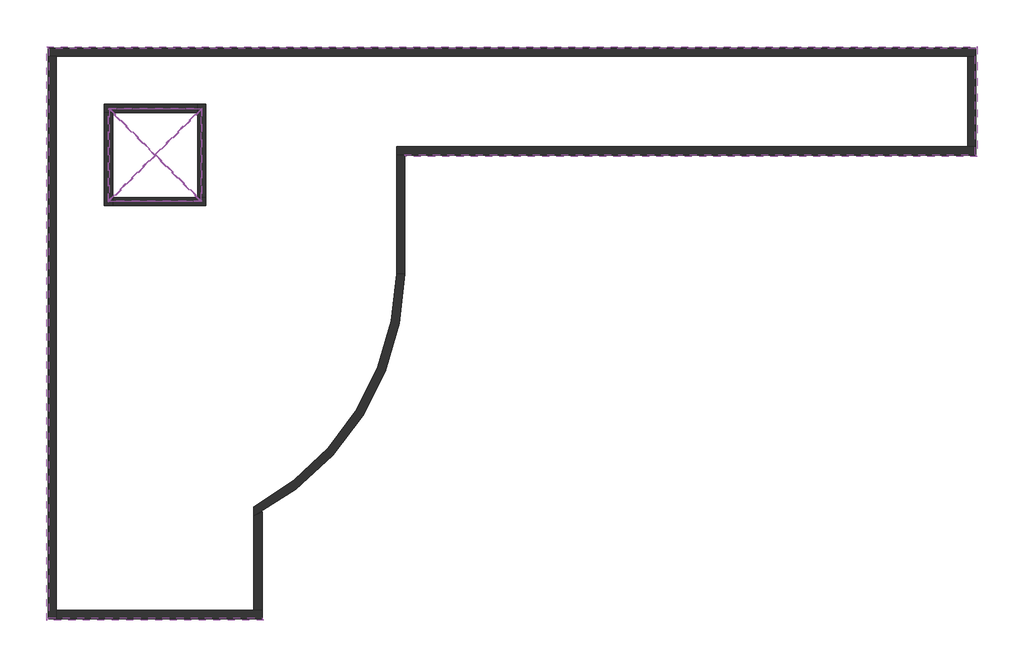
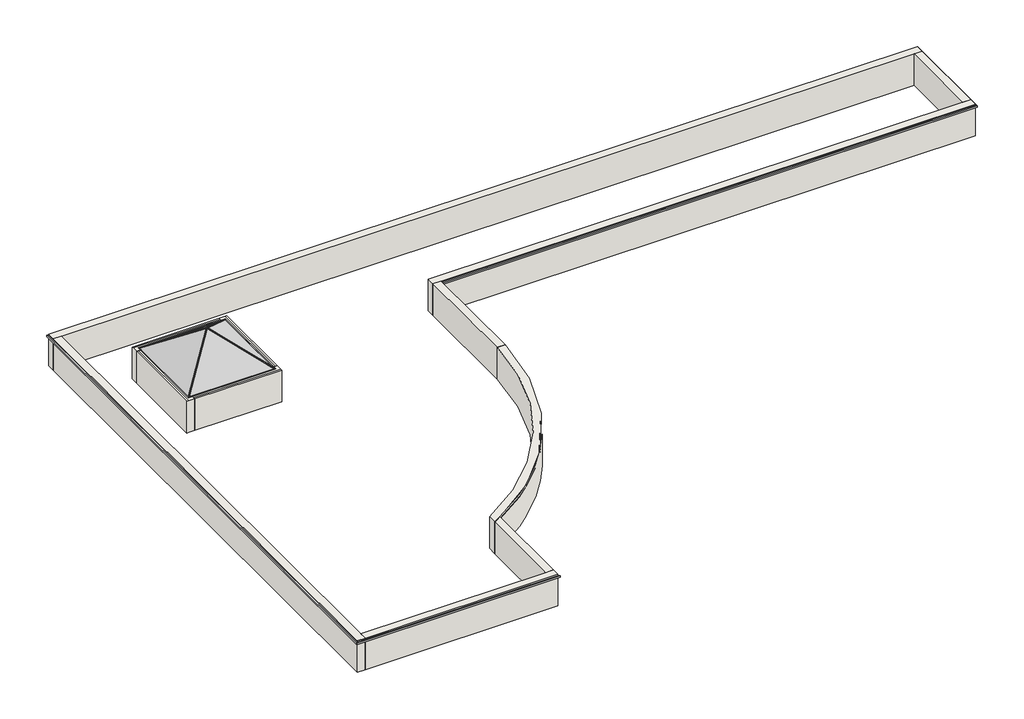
# One storey, incomplete: 12 members, 12 walls, 5 proxies, 4 plates.
"""IFC4 building model written with IfcOpenShell, lengths in millimetres."""

import ifcopenshell
import ifcopenshell.guid

model = None  # the IFC model being written
_history = None  # IfcOwnerHistory: only IFC2X3 demands one
_inside = {}  # id of a spatial element -> (the spatial element, [elements in it])
_under = {}  # id of a project, library or spatial element -> (it, [spatial elements below it])
_declared = {}  # id of a project -> (the project, [libraries it declares])
_typed = {}  # id of a type object -> (the type object, [elements of that type])
_made_of = {}  # id of a material, layer set ... -> (it, [elements and type objects made of it])


def new_model(schema):
    """Start an empty IFC model of exactly this schema.

    Asked for "IFC4X3", IfcOpenShell would pick the latest addendum, in which some entities
    have other attributes; the version numbers below select the first issue.
    IFC2X3 requires an IfcOwnerHistory on every rooted entity: one is made here for all.
    """
    global model, _history
    if schema == "IFC4X3":
        model = ifcopenshell.file(schema_version=(4, 3, 0, 0))
    else:
        model = ifcopenshell.file(schema=schema)
    _inside.clear()
    _under.clear()
    _declared.clear()
    _typed.clear()
    _made_of.clear()
    _history = None
    if model.schema == "IFC2X3":
        org = make("IfcOrganization", Name="unknown")
        user = make(
            "IfcPersonAndOrganization",
            ThePerson=make("IfcPerson", FamilyName="unknown"),
            TheOrganization=org,
        )
        app = make(
            "IfcApplication",
            ApplicationDeveloper=org,
            Version="unknown",
            ApplicationFullName="unknown",
            ApplicationIdentifier="unknown",
        )
        _history = make(
            "IfcOwnerHistory",
            OwningUser=user,
            OwningApplication=app,
            ChangeAction="ADDED",
            CreationDate=0,
        )
    return model


def make(cls, **values):
    """One entity of the class cls with the attributes given. An attribute that is None is left unset."""
    return model.create_entity(
        cls, **{name: value for name, value in values.items() if value is not None}
    )


def rooted(cls, **values):
    """An entity with a GlobalId (a new one), such as an element, a storey or a relation."""
    return make(cls, GlobalId=ifcopenshell.guid.new(), OwnerHistory=_history, **values)


def si_unit(unit_type, name, prefix=None):
    """IfcSIUnit, for example si_unit("LENGTHUNIT", "METRE", prefix="MILLI")."""
    return make("IfcSIUnit", UnitType=unit_type, Prefix=prefix, Name=name)


def assignment(units):
    """IfcUnitAssignment: the units of a project."""
    return None if units is None else make("IfcUnitAssignment", Units=units)


def point(xyz):
    """IfcCartesianPoint."""
    return None if xyz is None else make("IfcCartesianPoint", Coordinates=xyz)


def direction(xyz):
    """IfcDirection."""
    return None if xyz is None else make("IfcDirection", DirectionRatios=xyz)


def frame(location, z_axis=None, x_axis=None):
    """IfcAxis2Placement3D, a coordinate frame: its origin and axes. An axis left out is left unset."""
    return make(
        "IfcAxis2Placement3D",
        Location=point(location),
        Axis=direction(z_axis),
        RefDirection=direction(x_axis),
    )


def origin():
    """The frame at (0, 0, 0) with its axes left unset."""
    return frame((0.0, 0.0, 0.0))


def place(relative_to, where):
    """IfcLocalPlacement: puts the frame where relative to a parent placement (None: the world)."""
    return make(
        "IfcLocalPlacement", PlacementRelTo=relative_to, RelativePlacement=where
    )


def context(
    kind, dimensions, precision=None, world=None, true_north=None, identifier=None
):
    """IfcGeometricRepresentationContext, for example the 3D "Model" context."""
    return make(
        "IfcGeometricRepresentationContext",
        ContextIdentifier=identifier,
        ContextType=kind,
        CoordinateSpaceDimension=dimensions,
        Precision=precision,
        WorldCoordinateSystem=world,
        TrueNorth=true_north,
    )


def project(units=None, contexts=None):
    """IfcProject with its units and contexts."""
    return rooted(
        "IfcProject",
        Name="project",
        RepresentationContexts=contexts,
        UnitsInContext=assignment(units),
    )


def spatial(cls, under=None, at=None, **own):
    """A site, building, storey or space (cls), placed at a placement, below another one or the project."""
    s = rooted(cls, ObjectPlacement=at, **own)
    if under is not None:
        _under.setdefault(under.id(), (under, []))[1].append(s)
    return s


def polyline(points):
    """IfcPolyline through the points."""
    return make("IfcPolyline", Points=[point(p) for p in points])


def circle_curve(where, radius):
    """IfcCircle in the frame where."""
    return make("IfcCircle", Position=where, Radius=radius)


def outline(outer, holes=None, kind="AREA"):
    """IfcArbitraryClosedProfileDef: a profile drawn as a closed curve; with holes, ...WithVoids."""
    if holes is None:
        return make("IfcArbitraryClosedProfileDef", ProfileType=kind, OuterCurve=outer)
    return make(
        "IfcArbitraryProfileDefWithVoids",
        ProfileType=kind,
        OuterCurve=outer,
        InnerCurves=holes,
    )


def extrude(swept, where, along, depth):
    """IfcExtrudedAreaSolid: the profile swept, set in the frame where, extruded along a direction by depth."""
    return make(
        "IfcExtrudedAreaSolid",
        SweptArea=swept,
        Position=where,
        ExtrudedDirection=direction(along),
        Depth=depth,
    )


def faces_of(points, faces, orient=None, outer=None):
    """IfcFace entities. A face is a list of loops; a loop is a list of indices into points, from 0.

    orient and outer hold one flag for each loop. By default every Orientation is true, the
    first loop of a face is its IfcFaceOuterBound and the others are IfcFaceBound.
    """
    made = []
    for i, loops in enumerate(faces):
        bounds = []
        for j, loop in enumerate(loops):
            is_outer = j == 0 if outer is None else outer[i][j]
            bounds.append(
                make(
                    "IfcFaceOuterBound" if is_outer else "IfcFaceBound",
                    Bound=make("IfcPolyLoop", Polygon=[points[k] for k in loop]),
                    Orientation=True if orient is None else orient[i][j],
                )
            )
        made.append(make("IfcFace", Bounds=bounds))
    return made


def faceted_brep(points, faces, orient=None, outer=None, voids=None):
    """IfcFacetedBrep: a solid bounded by flat faces; with voids (closed shells), ...WithVoids."""
    shared = [point(p) for p in points]
    hull = make("IfcClosedShell", CfsFaces=faces_of(shared, faces, orient, outer))
    if voids is None:
        return make("IfcFacetedBrep", Outer=hull)
    return make(
        "IfcFacetedBrepWithVoids",
        Outer=hull,
        Voids=[
            make(cls, CfsFaces=faces_of(shared, fs, o, b)) for cls, fs, o, b in voids
        ],
    )


def shape(context_of_items, identifier, shape_type, items):
    """IfcShapeRepresentation: the items that make up one representation, for example the "Body"."""
    return make(
        "IfcShapeRepresentation",
        ContextOfItems=context_of_items,
        RepresentationIdentifier=identifier,
        RepresentationType=shape_type,
        Items=items,
    )


def source(mapping_origin, context_of_items, identifier, shape_type, items):
    """IfcRepresentationMap: a shape defined once, which mapped items show again and again."""
    return make(
        "IfcRepresentationMap",
        MappingOrigin=mapping_origin,
        MappedRepresentation=shape(context_of_items, identifier, shape_type, items),
    )


def transform(
    local_origin,
    x_axis=None,
    y_axis=None,
    z_axis=None,
    scale=None,
    scale2=None,
    scale3=None,
    uniform=True,
):
    """IfcCartesianTransformationOperator3D, or its non-uniform kind. x_axis, y_axis, z_axis: its Axis1, 2, 3."""
    if uniform:
        return make(
            "IfcCartesianTransformationOperator3D",
            Axis1=direction(x_axis),
            Axis2=direction(y_axis),
            LocalOrigin=point(local_origin),
            Scale=scale,
            Axis3=direction(z_axis),
        )
    return make(
        "IfcCartesianTransformationOperator3DnonUniform",
        Axis1=direction(x_axis),
        Axis2=direction(y_axis),
        LocalOrigin=point(local_origin),
        Scale=scale,
        Axis3=direction(z_axis),
        Scale2=scale2,
        Scale3=scale3,
    )


def mapped(mapping_source, mapping_target):
    """IfcMappedItem: shows the shape of a source again, moved by a transform."""
    return make(
        "IfcMappedItem", MappingSource=mapping_source, MappingTarget=mapping_target
    )


def made_of(thing, what):
    """Note that an element or type object is made of a material, layer set ...; save() writes the relation."""
    if what is not None:
        _made_of.setdefault(what.id(), (what, []))[1].append(thing)
    return thing


def element(
    cls,
    number,
    at=None,
    inside=None,
    cuts=None,
    type_object=None,
    material=None,
    context=None,
    identifier="Body",
    shape_type=None,
    held_by="IfcProductDefinitionShape",
    body=None,
    shapes=None,
    **own,
):
    """One element of the class cls, such as IfcWall. Its Tag is "e" and its number.

    at: its placement. inside: the storey or other place that contains it. cuts: it is an
    opening in that element (IfcRelVoidsElement). A single representation is given by context,
    identifier, shape_type and body (its items); several are given by shapes. held_by: the class
    of the entity that holds the representations. save() writes the other relations.
    """
    e = rooted(cls, Tag="e%d" % number, ObjectPlacement=at, **own)
    if body is not None:
        shapes = [shape(context, identifier, shape_type, body)]
    if shapes is not None:
        e.Representation = make(held_by, Representations=shapes)
    if inside is not None:
        _inside.setdefault(inside.id(), (inside, []))[1].append(e)
    if cuts is not None:
        rooted(
            "IfcRelVoidsElement", RelatingBuildingElement=cuts, RelatedOpeningElement=e
        )
    if type_object is not None:
        _typed.setdefault(type_object.id(), (type_object, []))[1].append(e)
    return made_of(e, material)


def aggregate(whole, parts):
    """IfcRelAggregates: a whole, such as a stair, and the parts it consists of."""
    return rooted("IfcRelAggregates", RelatingObject=whole, RelatedObjects=parts)


def save(model, path):
    """Write the relations noted so far, then the file.

    IfcRelAggregates (storeys below a building ...), IfcRelContainedInSpatialStructure (elements
    in a storey), IfcRelDefinesByType, IfcRelAssociatesMaterial and IfcRelDeclares: one each for
    every whole, place, type object, material and project.
    """
    for whole, parts in _under.values():
        aggregate(whole, parts)
    for where, things in _inside.values():
        rooted(
            "IfcRelContainedInSpatialStructure",
            RelatedElements=things,
            RelatingStructure=where,
        )
    for kind, things in _typed.values():
        rooted("IfcRelDefinesByType", RelatedObjects=things, RelatingType=kind)
    for what, things in _made_of.values():
        rooted("IfcRelAssociatesMaterial", RelatedObjects=things, RelatingMaterial=what)
    for by, libraries in _declared.values():
        rooted("IfcRelDeclares", RelatingContext=by, RelatedDefinitions=libraries)
    model.write(path)


def plane_surface(at):
    """IfcPlane: the flat surface through the origin of the frame at, square to its z axis."""
    return make("IfcPlane", Position=at)


def cylinder_surface(at, radius):
    """IfcCylindricalSurface: all points at the distance radius from the z axis of the frame at."""
    return make("IfcCylindricalSurface", Position=at, Radius=radius)


def revolved_surface(curve, axis_point, axis_direction):
    """IfcSurfaceOfRevolution: the curve turned about the line through axis_point along axis_direction."""
    return make(
        "IfcSurfaceOfRevolution",
        SweptCurve=make("IfcArbitraryOpenProfileDef", ProfileType="CURVE", Curve=curve),
        AxisPosition=make("IfcAxis1Placement", Location=point(axis_point), Axis=direction(axis_direction)),
    )


def advanced_brep(points, edges, surfaces, faces):
    """IfcAdvancedBrep: a solid bounded by faces that lie on surfaces and meet in shared edges.

    An edge is (start, end): straight between two places in points (the first is 0);
    or (start, end, curve); or (start, end, curve, False) where it runs against its curve.
    A face is (place in surfaces, loops), or (place, loops, False) where it looks against
    its surface's normal. A loop lists edges by number (the first is 1), with a minus sign
    where the edge is run from its end to its start. The first loop is the outer one.
    """
    corners = [point(p) for p in points]
    vertices = [make("IfcVertexPoint", VertexGeometry=c) for c in corners]
    made = []
    for start, end, *more in edges:
        made.append(
            make(
                "IfcEdgeCurve",
                EdgeStart=vertices[start],
                EdgeEnd=vertices[end],
                EdgeGeometry=more[0] if more else make("IfcPolyline", Points=[corners[start], corners[end]]),
                SameSense=more[1] if len(more) > 1 else True,
            )
        )
    hull = []
    for where, loops, *sense in faces:
        bounds = []
        for j, loop in enumerate(loops):
            ring = [make("IfcOrientedEdge", EdgeElement=made[abs(k) - 1], Orientation=k > 0) for k in loop]
            bounds.append(
                make(
                    "IfcFaceOuterBound" if j == 0 else "IfcFaceBound",
                    Bound=make("IfcEdgeLoop", EdgeList=ring),
                    Orientation=True,
                )
            )
        hull.append(make("IfcAdvancedFace", Bounds=bounds, FaceSurface=surfaces[where], SameSense=sense[0] if sense else True))
    return make("IfcAdvancedBrep", Outer=make("IfcClosedShell", CfsFaces=hull))


def member_621c6d7b(model_context):
    return source(origin(), model_context, "Body", "SweptSolid", [
        extrude(outline(polyline([(0.0, 0.0), (-52.8478711, -25.4), (-3922.2521289, -25.4), (-3975.1, 0.0), (0.0, 0.0)])), frame((0.0, -12.7, 0.0), z_axis=(0.0, 1.0, 0.0), x_axis=(0.0, 0.0, 1.0)), (0.0, 0.0, 1.0), 25.4),
    ])


def member_86c85992(model_context):
    return source(origin(), model_context, "Body", "SweptSolid", [
        extrude(outline(polyline([(0.0, 0.0), (-52.8478711, -25.4), (-3149.8823945, -25.4), (-3181.6323945, 0.0), (0.0, 0.0)])), frame((0.0, -12.7, 0.0), z_axis=(0.0, 1.0, 0.0), x_axis=(0.0, 0.0, 1.0)), (0.0, 0.0, 1.0), 25.4),
    ])


def member_e654893a(model_context):
    return source(origin(), model_context, "Body", "SweptSolid", [
        extrude(outline(polyline([(0.0, 0.0), (-31.75, -25.4), (-3128.7845234, -25.4), (-3181.6323945, 0.0), (0.0, 0.0)])), frame((0.0, -12.7, 0.0), z_axis=(0.0, 1.0, 0.0), x_axis=(0.0, 0.0, 1.0)), (0.0, 0.0, 1.0), 25.4),
    ])


def system_panel_glazed_41d4b6ee(model_context):
    return source(origin(), model_context, "Body", "SweptSolid", [
        extrude(outline(polyline([(0.0, -1987.55), (0.0, 1987.55), (2484.4375, 0.0), (0.0, -1987.55)])), frame((0.0, 19.05, 0.0), z_axis=(0.0, 1.0, 0.0), x_axis=(0.0, 0.0, 1.0)), (0.0, 0.0, 1.0), 25.4),
    ])


model = new_model("IFC4")

# Units and contexts
model_context = context("Model", 3, world=origin())
ifc_project = project(units=[si_unit("LENGTHUNIT", "METRE", prefix="MILLI")], contexts=[model_context])

# Site, building, storey
site = spatial("IfcSite", under=ifc_project)
building = spatial("IfcBuilding", under=site)
storey = spatial("IfcBuildingStorey", under=building, Name="04 T.O. Roof", Elevation=13716.0)

# Proxies
placement = place(None, origin())
element("IfcBuildingElementProxy", 1, Name="Reveals", at=placement, inside=storey, context=model_context, shape_type="SweptSolid", body=[
    extrude(outline(polyline([(-19497.3273699, 9224.7746638), (-19589.4023699, 9316.8496638), (20167.9476301, 9316.8496638), (20075.8726301, 9224.7746638), (-19497.3273699, 9224.7746638)])), frame((0.0, 0.0, 15113.0), z_axis=(0.0, 0.0, 1.0), x_axis=(1.0, 0.0, 0.0)), (0.0, 0.0, 1.0), 67.7333333),
])
element("IfcBuildingElementProxy", 2, Name="Reveals", at=placement, inside=storey, context=model_context, shape_type="SweptSolid", body=[
    extrude(outline(polyline([(-19497.3273699, -15108.4253362), (-19589.4023699, -15200.5003362), (-19589.4023699, 9316.8496638), (-19497.3273699, 9224.7746638), (-19497.3273699, -15108.4253362)])), frame((0.0, 0.0, 15113.0), z_axis=(0.0, 0.0, 1.0), x_axis=(1.0, 0.0, 0.0)), (0.0, 0.0, 1.0), 67.7333333),
])
element("IfcBuildingElementProxy", 3, Name="Reveals", at=placement, inside=storey, context=model_context, shape_type="SweptSolid", body=[
    extrude(outline(polyline([(-19589.4023699, -15200.5003362), (-19497.3273699, -15108.4253362), (-10404.1273699, -15108.4253362), (-10312.0523699, -15200.5003362), (-19589.4023699, -15200.5003362)])), frame((0.0, 0.0, 15113.0), z_axis=(0.0, 0.0, 1.0), x_axis=(1.0, 0.0, 0.0)), (0.0, 0.0, 1.0), 67.7333333),
])
element("IfcBuildingElementProxy", 4, Name="Reveals", at=placement, inside=storey, context=model_context, shape_type="SweptSolid", body=[
    extrude(outline(polyline([(-4216.0523699, 4611.4996638), (-4308.1273699, 4703.5746638), (20075.8726301, 4703.5746638), (20167.9476301, 4611.4996638), (-4216.0523699, 4611.4996638)])), frame((0.0, 0.0, 15113.0), z_axis=(0.0, 0.0, 1.0), x_axis=(1.0, 0.0, 0.0)), (0.0, 0.0, 1.0), 67.7333333),
])
element("IfcBuildingElementProxy", 5, Name="Reveals", at=placement, inside=storey, context=model_context, shape_type="SweptSolid", body=[
    extrude(outline(polyline([(20167.9476301, 4611.4996638), (20075.8726301, 4703.5746638), (20075.8726301, 9224.7746638), (20167.9476301, 9316.8496638), (20167.9476301, 4611.4996638)])), frame((0.0, 0.0, 15113.0), z_axis=(0.0, 0.0, 1.0), x_axis=(1.0, 0.0, 0.0)), (0.0, 0.0, 1.0), 67.7333333),
])

# Members
member_shape = member_621c6d7b(model_context)
element("IfcMember", 6, ObjectType="Rectangular Mullion : 1\" Square", at=placement, inside=storey, context=model_context, shape_type="MappedRepresentation", body=[
    mapped(member_shape, transform((-12963.1773699, 6665.7246638, 15240.0), x_axis=(0.7999999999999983, 0.0, -0.6000000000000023), y_axis=(-0.6000000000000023, 0.0, -0.7999999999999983), z_axis=(0.0, 1.0, 0.0))),
])
element("IfcMember", 7, ObjectType="Rectangular Mullion : 1\" Square", at=placement, inside=storey, context=model_context, shape_type="MappedRepresentation", body=[
    mapped(member_shape, transform((-16938.2773699, 2690.6246638, 15240.0), x_axis=(-0.7999999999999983, 0.0, -0.6000000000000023), y_axis=(0.6000000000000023, 0.0, -0.7999999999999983), z_axis=(0.0, -1.0, 0.0))),
])
element("IfcMember", 8, ObjectType="Rectangular Mullion : 1\" Square", at=placement, inside=storey, context=model_context, shape_type="MappedRepresentation", body=[
    mapped(member_shape, transform((-16938.2773699, 6665.7246638, 15240.0), x_axis=(0.0, 0.7999999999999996, -0.6000000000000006), y_axis=(0.0, -0.6000000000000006, -0.7999999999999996), z_axis=(-1.0, 0.0, 0.0))),
])
member_2_shape = member_86c85992(model_context)
element("IfcMember", 9, ObjectType="Rectangular Mullion : 1\" Square", at=placement, inside=storey, context=model_context, shape_type="MappedRepresentation", body=[
    mapped(member_2_shape, transform((-12963.1773699, 2690.6246638, 15240.0), x_axis=(-0.49975603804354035, -0.7808688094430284, 0.3748170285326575), y_axis=(-0.6000000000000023, 0.0, -0.7999999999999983), z_axis=(0.6246950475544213, -0.6246950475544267, -0.4685212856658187))),
])
element("IfcMember", 10, ObjectType="Rectangular Mullion : 1\" Square", at=placement, inside=storey, context=model_context, shape_type="MappedRepresentation", body=[
    mapped(member_2_shape, transform((-16938.2773699, 2690.6246638, 15240.0), x_axis=(-0.7808688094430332, 0.49975603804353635, 0.37481702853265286), y_axis=(0.0, 0.6000000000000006, -0.7999999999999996), z_axis=(-0.6246950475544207, -0.6246950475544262, -0.46852128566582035))),
])
member_3_shape = member_e654893a(model_context)
element("IfcMember", 11, ObjectType="Rectangular Mullion : 1\" Square", at=placement, inside=storey, context=model_context, shape_type="MappedRepresentation", body=[
    mapped(member_3_shape, transform((-14950.7273699, 4678.1746638, 16730.6625), x_axis=(-0.4997560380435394, 0.7808688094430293, 0.3748170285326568), y_axis=(-0.6000000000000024, 0.0, -0.7999999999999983), z_axis=(-0.624695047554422, -0.6246950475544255, 0.46852128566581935))),
])
element("IfcMember", 12, ObjectType="Rectangular Mullion : 1\" Square", at=placement, inside=storey, context=model_context, shape_type="MappedRepresentation", body=[
    mapped(member_2_shape, transform((-16938.2773699, 6665.7246638, 15240.0), x_axis=(0.4997560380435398, 0.7808688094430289, 0.3748170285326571), y_axis=(0.6000000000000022, 0.0, -0.7999999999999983), z_axis=(-0.6246950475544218, 0.6246950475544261, -0.4685212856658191))),
])
element("IfcMember", 13, ObjectType="Rectangular Mullion : 1\" Square", at=placement, inside=storey, context=model_context, shape_type="MappedRepresentation", body=[
    mapped(member_2_shape, transform((-12963.1773699, 6665.7246638, 15240.0), x_axis=(0.7808688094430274, -0.4997560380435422, 0.37481702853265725), y_axis=(0.0, -0.6000000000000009, -0.7999999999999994), z_axis=(0.6246950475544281, 0.6246950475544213, -0.46852128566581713))),
])
element("IfcMember", 14, ObjectType="Rectangular Mullion : 1\" Square", at=placement, inside=storey, context=model_context, shape_type="MappedRepresentation", body=[
    mapped(member_3_shape, transform((-14950.7273699, 4678.1746638, 16730.6625), x_axis=(0.49975603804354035, -0.7808688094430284, 0.3748170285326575), y_axis=(0.6000000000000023, 0.0, -0.7999999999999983), z_axis=(0.6246950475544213, 0.6246950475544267, 0.4685212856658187))),
])
element("IfcMember", 15, ObjectType="Rectangular Mullion : 1\" Square", at=placement, inside=storey, context=model_context, shape_type="MappedRepresentation", body=[
    mapped(member_3_shape, transform((-14950.7273699, 4678.1746638, 16730.6625), x_axis=(-0.7808688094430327, -0.4997560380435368, 0.3748170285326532), y_axis=(0.0, -0.6000000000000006, -0.7999999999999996), z_axis=(0.6246950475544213, -0.6246950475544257, 0.4685212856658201))),
])
element("IfcMember", 16, ObjectType="Rectangular Mullion : 1\" Square", at=placement, inside=storey, context=model_context, shape_type="MappedRepresentation", body=[
    mapped(member_shape, transform((-12963.1773699, 2690.6246638, 15240.0), x_axis=(0.0, -0.7999999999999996, -0.6000000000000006), y_axis=(0.0, 0.6000000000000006, -0.7999999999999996), z_axis=(1.0, 0.0, 0.0))),
])
element("IfcMember", 17, ObjectType="Rectangular Mullion : 1\" Square", at=placement, inside=storey, context=model_context, shape_type="MappedRepresentation", body=[
    mapped(member_3_shape, transform((-14950.7273699, 4678.1746638, 16730.6625), x_axis=(0.7808688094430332, 0.49975603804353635, 0.37481702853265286), y_axis=(0.0, 0.6000000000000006, -0.7999999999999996), z_axis=(-0.6246950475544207, 0.6246950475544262, 0.46852128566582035))),
])

# Plates
system_panel_glazed_shape = system_panel_glazed_41d4b6ee(model_context)
element("IfcPlate", 18, ObjectType="System Panel : Glazed", at=placement, inside=storey, context=model_context, shape_type="MappedRepresentation", body=[
    mapped(system_panel_glazed_shape, transform((-14950.7273699, 6665.7246638, 15240.0), x_axis=(-1.0, 0.0, 0.0), y_axis=(0.0, -0.6000000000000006, -0.7999999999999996), z_axis=(0.0, -0.7999999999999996, 0.6000000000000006))),
])
element("IfcPlate", 19, ObjectType="System Panel : Glazed", at=placement, inside=storey, context=model_context, shape_type="MappedRepresentation", body=[
    mapped(system_panel_glazed_shape, transform((-16938.2773699, 4678.1746638, 15240.0), x_axis=(0.0, -1.0, 0.0), y_axis=(0.6000000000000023, 0.0, -0.7999999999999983), z_axis=(0.7999999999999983, 0.0, 0.6000000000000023))),
])
element("IfcPlate", 20, ObjectType="System Panel : Glazed", at=placement, inside=storey, context=model_context, shape_type="MappedRepresentation", body=[
    mapped(system_panel_glazed_shape, transform((-14950.7273699, 2690.6246638, 15240.0), x_axis=(1.0, 0.0, 0.0), y_axis=(0.0, 0.6000000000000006, -0.7999999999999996), z_axis=(0.0, 0.7999999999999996, 0.6000000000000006))),
])
element("IfcPlate", 21, ObjectType="System Panel : Glazed", at=placement, inside=storey, context=model_context, shape_type="MappedRepresentation", body=[
    mapped(system_panel_glazed_shape, transform((-12963.1773699, 4678.1746638, 15240.0), x_axis=(0.0, 1.0, 0.0), y_axis=(-0.6000000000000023, 0.0, -0.7999999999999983), z_axis=(-0.7999999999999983, 0.0, 0.6000000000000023))),
])

# Walls
element("IfcWall", 22, ObjectType="Ext Wall_14\"_Brick on CMU", at=placement, inside=storey, context=model_context, shape_type="Brep", body=[
    faceted_brep([(-17116.0773699, 6487.9246638, 13716.0), (-16760.4773699, 6487.9246638, 13716.0), (-13140.9773699, 6487.9246638, 13716.0), (-13140.9773699, 6487.9246638, 15240.0), (-16760.4773699, 6487.9246638, 15240.0), (-17116.0773699, 6487.9246638, 15240.0), (-17116.0773699, 6843.5246638, 13716.0), (-17116.0773699, 6843.5246638, 15240.0), (-13140.9773699, 6843.5246638, 15240.0), (-13140.9773699, 6843.5246638, 13716.0), (-17116.0773699, 6767.3246638, 15240.0), (-17116.0773699, 6767.3246638, 13716.0), (-13140.9773699, 6767.3246638, 13716.0), (-13140.9773699, 6767.3246638, 15240.0)], [[[0, 1, 2, 3, 4, 5]], [[6, 7, 8, 9]], [[0, 5, 10, 7, 6, 11]], [[3, 2, 12, 9, 8, 13]], [[2, 1, 0, 11, 12]], [[11, 6, 9, 12]], [[13, 8, 7, 10]], [[5, 4, 3, 13, 10]]]),
])
element("IfcWall", 23, ObjectType="Ext Wall_14\"_Brick on CMU", at=placement, inside=storey, context=model_context, shape_type="Brep", body=[
    faceted_brep([(-16760.4773699, 2512.8246638, 13716.0), (-16760.4773699, 2868.4246638, 13716.0), (-16760.4773699, 6487.9246638, 13716.0), (-16760.4773699, 6487.9246638, 15240.0), (-16760.4773699, 2868.4246638, 15240.0), (-16760.4773699, 2512.8246638, 15240.0), (-17116.0773699, 2512.8246638, 13716.0), (-17116.0773699, 2512.8246638, 15240.0), (-17116.0773699, 6487.9246638, 15240.0), (-17116.0773699, 6487.9246638, 13716.0), (-17039.8773699, 2512.8246638, 15240.0), (-17039.8773699, 2512.8246638, 13716.0), (-17039.8773699, 6487.9246638, 13716.0), (-17039.8773699, 6487.9246638, 15240.0)], [[[0, 1, 2, 3, 4, 5]], [[6, 7, 8, 9]], [[0, 5, 10, 7, 6, 11]], [[3, 2, 12, 9, 8, 13]], [[2, 1, 0, 11, 12]], [[11, 6, 9, 12]], [[13, 8, 7, 10]], [[5, 4, 3, 13, 10]]]),
])
element("IfcWall", 24, ObjectType="Ext Wall_14\"_Brick on CMU", at=placement, inside=storey, context=model_context, shape_type="Brep", body=[
    faceted_brep([(-12785.3773699, 2868.4246638, 13716.0), (-13140.9773699, 2868.4246638, 13716.0), (-16760.4773699, 2868.4246638, 13716.0), (-16760.4773699, 2868.4246638, 15240.0), (-13140.9773699, 2868.4246638, 15240.0), (-12785.3773699, 2868.4246638, 15240.0), (-12785.3773699, 2512.8246638, 13716.0), (-12785.3773699, 2512.8246638, 15240.0), (-16760.4773699, 2512.8246638, 15240.0), (-16760.4773699, 2512.8246638, 13716.0), (-12785.3773699, 2589.0246638, 15240.0), (-12785.3773699, 2589.0246638, 13716.0), (-16760.4773699, 2589.0246638, 13716.0), (-16760.4773699, 2589.0246638, 15240.0)], [[[0, 1, 2, 3, 4, 5]], [[6, 7, 8, 9]], [[0, 5, 10, 7, 6, 11]], [[3, 2, 12, 9, 8, 13]], [[2, 1, 0, 11, 12]], [[11, 6, 9, 12]], [[13, 8, 7, 10]], [[5, 4, 3, 13, 10]]]),
])
element("IfcWall", 25, ObjectType="Ext Wall_14\"_Brick on CMU", at=placement, inside=storey, context=model_context, shape_type="Brep", body=[
    faceted_brep([(-13140.9773699, 6843.5246638, 13716.0), (-13140.9773699, 6487.9246638, 13716.0), (-13140.9773699, 2868.4246638, 13716.0), (-13140.9773699, 2868.4246638, 15240.0), (-13140.9773699, 6487.9246638, 15240.0), (-13140.9773699, 6843.5246638, 15240.0), (-12785.3773699, 6843.5246638, 13716.0), (-12785.3773699, 6843.5246638, 15240.0), (-12785.3773699, 2868.4246638, 15240.0), (-12785.3773699, 2868.4246638, 13716.0), (-12861.5773699, 6843.5246638, 15240.0), (-12861.5773699, 6843.5246638, 13716.0), (-12861.5773699, 2868.4246638, 13716.0), (-12861.5773699, 2868.4246638, 15240.0)], [[[0, 1, 2, 3, 4, 5]], [[6, 7, 8, 9]], [[0, 5, 10, 7, 6, 11]], [[3, 2, 12, 9, 8, 13]], [[2, 1, 0, 11, 12]], [[11, 6, 9, 12]], [[13, 8, 7, 10]], [[5, 4, 3, 13, 10]]]),
])
element("IfcWall", 26, ObjectType="Ext Wall_Parapet_14\"_Brick on CMU", at=placement, inside=storey, context=model_context, shape_type="Brep", body=[
    faceted_brep([(-19522.7273699, 8894.5746638, 13716.0), (-19167.1273699, 8894.5746638, 13716.0), (19745.6726301, 8894.5746638, 13716.0), (20101.2726301, 8894.5746638, 13716.0), (20101.2726301, 8894.5746638, 15113.0), (20075.8726301, 8894.5746638, 15113.0), (20075.8726301, 8894.5746638, 15180.7333333), (20101.2726301, 8894.5746638, 15180.7333333), (20101.2726301, 8894.5746638, 15240.0), (19745.6726301, 8894.5746638, 15240.0), (-19167.1273699, 8894.5746638, 15240.0), (-19522.7273699, 8894.5746638, 15240.0), (-19522.7273699, 8894.5746638, 15180.7333333), (-19497.3273699, 8894.5746638, 15180.7333333), (-19497.3273699, 8894.5746638, 15113.0), (-19522.7273699, 8894.5746638, 15113.0), (20101.2726301, 9250.1746638, 13716.0), (-19522.7273699, 9250.1746638, 13716.0), (-19522.7273699, 9250.1746638, 15113.0), (20101.2726301, 9250.1746638, 15113.0), (-19522.7273699, 9250.1746638, 15240.0), (20101.2726301, 9250.1746638, 15240.0), (20101.2726301, 9250.1746638, 15180.7333333), (-19522.7273699, 9250.1746638, 15180.7333333), (20075.8726301, 9224.7746638, 15180.7333333), (-19497.3273699, 9224.7746638, 15180.7333333), (-19497.3273699, 9224.7746638, 15113.0), (20075.8726301, 9224.7746638, 15113.0)], [[[0, 1, 2, 3, 4, 5, 6, 7, 8, 9, 10, 11, 12, 13, 14, 15]], [[16, 17, 18, 19]], [[20, 21, 22, 23]], [[3, 2, 1, 0, 17, 16]], [[11, 10, 9, 8, 21, 20]], [[11, 20, 23, 12]], [[17, 0, 15, 18]], [[3, 16, 19, 4]], [[21, 8, 7, 22]], [[24, 25, 13, 12, 23, 22, 7, 6]], [[26, 27, 5, 4, 19, 18, 15, 14]], [[25, 26, 14, 13]], [[25, 24, 27, 26]], [[27, 24, 6, 5]]]),
])
element("IfcWall", 27, ObjectType="Ext Wall_Parapet_14\"_Brick on CMU", at=placement, inside=storey, context=model_context, shape_type="Brep", body=[
    faceted_brep([(-19167.1273699, -15133.8253362, 13716.0), (-19167.1273699, -14778.2253362, 13716.0), (-19167.1273699, 8894.5746638, 13716.0), (-19167.1273699, 8894.5746638, 15240.0), (-19167.1273699, -14778.2253362, 15240.0), (-19167.1273699, -15133.8253362, 15240.0), (-19167.1273699, -15133.8253362, 15180.7333333), (-19167.1273699, -15108.4253362, 15180.7333333), (-19167.1273699, -15108.4253362, 15113.0), (-19167.1273699, -15133.8253362, 15113.0), (-19522.7273699, 8894.5746638, 13716.0), (-19522.7273699, -15133.8253362, 13716.0), (-19522.7273699, -15133.8253362, 15113.0), (-19522.7273699, 8894.5746638, 15113.0), (-19522.7273699, -15133.8253362, 15240.0), (-19522.7273699, 8894.5746638, 15240.0), (-19522.7273699, 8894.5746638, 15180.7333333), (-19522.7273699, -15133.8253362, 15180.7333333), (-19497.3273699, 8894.5746638, 15113.0), (-19497.3273699, 8894.5746638, 15180.7333333), (-19497.3273699, -15108.4253362, 15180.7333333), (-19497.3273699, -15108.4253362, 15113.0)], [[[0, 1, 2, 3, 4, 5, 6, 7, 8, 9]], [[10, 11, 12, 13]], [[14, 15, 16, 17]], [[2, 1, 0, 11, 10]], [[5, 4, 3, 15, 14]], [[5, 14, 17, 6]], [[11, 0, 9, 12]], [[3, 2, 10, 13, 18, 19, 16, 15]], [[19, 20, 7, 6, 17, 16]], [[8, 21, 18, 13, 12, 9]], [[20, 21, 8, 7]], [[21, 20, 19, 18]]]),
])
element("IfcWall", 28, ObjectType="Ext Wall_Parapet_14\"_Brick on CMU", at=placement, inside=storey, context=model_context, shape_type="Brep", body=[
    faceted_brep([(-19167.1273699, -15133.8253362, 13716.0), (-10378.7273699, -15133.8253362, 13716.0), (-10378.7273699, -15133.8253362, 15113.0), (-19167.1273699, -15133.8253362, 15113.0), (-10378.7273699, -15133.8253362, 15240.0), (-19167.1273699, -15133.8253362, 15240.0), (-19167.1273699, -15133.8253362, 15180.7333333), (-10378.7273699, -15133.8253362, 15180.7333333), (-10378.7273699, -14778.2253362, 13716.0), (-10734.3273699, -14778.2253362, 13716.0), (-19167.1273699, -14778.2253362, 13716.0), (-19167.1273699, -14778.2253362, 15240.0), (-10734.3273699, -14778.2253362, 15240.0), (-10378.7273699, -14778.2253362, 15240.0), (-10378.7273699, -14778.2253362, 15180.7333333), (-10404.1273699, -14778.2253362, 15180.7333333), (-10404.1273699, -14778.2253362, 15113.0), (-10378.7273699, -14778.2253362, 15113.0), (-19167.1273699, -15108.4253362, 15113.0), (-19167.1273699, -15108.4253362, 15180.7333333), (-10404.1273699, -15108.4253362, 15113.0), (-10404.1273699, -15108.4253362, 15180.7333333)], [[[0, 1, 2, 3]], [[4, 5, 6, 7]], [[8, 9, 10, 11, 12, 13, 14, 15, 16, 17]], [[1, 0, 10, 9, 8]], [[5, 4, 13, 12, 11]], [[5, 11, 10, 0, 3, 18, 19, 6]], [[1, 8, 17, 2]], [[13, 4, 7, 14]], [[16, 20, 18, 3, 2, 17]], [[19, 21, 15, 14, 7, 6]], [[20, 21, 19, 18]], [[21, 20, 16, 15]]]),
])
element("IfcWall", 29, ObjectType="Ext Wall_Parapet_14\"_Brick on CMU", at=placement, inside=storey, context=model_context, shape_type="AdvancedBrep", body=[
    advanced_brep(
    [(-10734.3273699, -10753.4735974, 13716.0), (-10734.3273699, -14778.2253362, 13716.0), (-10734.3273699, -14778.2253362, 15240.0), (-10734.3273699, -10753.4735974, 15240.0), (-10378.7273699, -14778.2253362, 13716.0), (-10378.7273699, -10561.8253362, 13716.0), (-10378.7273699, -10561.8253362, 15113.0), (-10378.7273699, -14778.2253362, 15113.0), (-10378.7273699, -10561.8253362, 15240.0), (-10378.7273699, -14778.2253362, 15240.0), (-10378.7273699, -14778.2253362, 15180.7333333), (-10378.7273699, -10561.8253362, 15180.7333333), (-10404.1273699, -14778.2253362, 15113.0), (-10404.1273699, -14778.2253362, 15180.7333333), (-10404.1273699, -10576.0334488, 15180.7333333), (-10404.1273699, -10576.0334488, 15113.0)],
    [
        (0, 1),
        (1, 2),
        (2, 3),
        (3, 0),
        (4, 5),
        (5, 6),
        (6, 7),
        (7, 4),
        (8, 9),
        (9, 10),
        (10, 11),
        (11, 8),
        (0, 5, circle_curve(frame((-16220.7273699, -147.8253362, 13716.0), z_axis=(0.0, 0.0, 1.0), x_axis=(1.0, 0.0, 0.0)), 11940.7018219)),
        (4, 1),
        (2, 9),
        (8, 3, circle_curve(frame((-16220.7273699, -147.8253362, 15240.0), z_axis=(0.0, 0.0, -1.0), x_axis=(1.0, 0.0, 0.0)), 11940.7018219)),
        (7, 12),
        (12, 13),
        (13, 10),
        (11, 14, circle_curve(frame((-16220.7273699, -147.8253362, 15180.7333333), z_axis=(0.0, 0.0, -1.0), x_axis=(1.0, 0.0, 0.0)), 11940.7018219)),
        (14, 15),
        (15, 6, circle_curve(frame((-16220.7273699, -147.8253362, 15113.0), z_axis=(0.0, 0.0, 1.0), x_axis=(1.0, 0.0, 0.0)), 11940.7018219)),
        (13, 14),
        (15, 12),
    ],
    [
        plane_surface(frame((-10734.3273699, -19189.7805979, 13716.0), z_axis=(-1.0, 0.0, 0.0), x_axis=(0.0, -1.0, 0.0))),
        plane_surface(frame((-10378.7273699, -19189.7805979, 13716.0), z_axis=(1.0, 0.0, 0.0), x_axis=(0.0, 1.0, 0.0))),
        plane_surface(frame((-10734.3273699, -10457.1753464, 13716.0), z_axis=(0.0, 0.0, -1.0), x_axis=(1.0, 0.0, 0.0))),
        plane_surface(frame((-10734.3273699, -14956.0253362, 15240.0), z_axis=(0.0, 0.0, 1.0), x_axis=(1.0, 0.0, 0.0))),
        plane_surface(frame((-19335.4023699, -14778.2253362, 13716.0), z_axis=(0.0, -1.0, 0.0), x_axis=(-1.0, 0.0, 0.0))),
        revolved_surface(polyline([(-4280.025548, -147.8253362, 15240.0), (-4280.025548, -147.8253362, 13716.0)]), (-16220.7273699, -147.8253362, 13716.0), (0.0, 0.0, 1.0)),
        plane_surface(frame((-16220.7273699, -147.8253362, 15180.7333333), z_axis=(0.0, 0.0, -1.0), x_axis=(0.9997737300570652, -0.021271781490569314, 0.0))),
        plane_surface(frame((-16220.7273699, -147.8253362, 15113.0), z_axis=(0.0, 0.0, 1.0), x_axis=(0.9997737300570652, -0.021271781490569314, 0.0))),
        plane_surface(frame((-10404.1273699, -10546.9398152, 15113.0), z_axis=(1.0, 0.0, 0.0), x_axis=(0.0, -1.0, 0.0))),
    ],
    [
        (0, [[1, 2, 3, 4]]),
        (1, [[5, 6, 7, 8]]),
        (1, [[9, 10, 11, 12]]),
        (2, [[-1, 13, -5, 14]]),
        (3, [[-3, 15, -9, 16]]),
        (4, [[-2, -14, -8, 17, 18, 19, -10, -15]]),
        (5, [[-4, -16, -12, 20, 21, 22, -6, -13]]),
        (6, [[23, -20, -11, -19]]),
        (7, [[24, -17, -7, -22]]),
        (8, [[-23, -18, -24, -21]]),
    ],
),
])
element("IfcWall", 30, ObjectType="Ext Wall_Parapet_14\"_Brick on CMU", at=placement, inside=storey, context=model_context, shape_type="Brep", body=[
    faceted_brep([(-4638.3273699, 4678.1746638, 13716.0), (-4282.7273699, 4678.1746638, 13716.0), (20101.2726301, 4678.1746638, 13716.0), (20101.2726301, 4678.1746638, 15113.0), (-4282.7273699, 4678.1746638, 15113.0), (-4308.1273699, 4678.1746638, 15113.0), (-4308.1273699, 4678.1746638, 15180.7333333), (-4282.7273699, 4678.1746638, 15180.7333333), (20101.2726301, 4678.1746638, 15180.7333333), (20101.2726301, 4678.1746638, 15240.0), (-4282.7273699, 4678.1746638, 15240.0), (-4638.3273699, 4678.1746638, 15240.0), (20101.2726301, 5033.7746638, 13716.0), (19745.6726301, 5033.7746638, 13716.0), (-4638.3273699, 5033.7746638, 13716.0), (-4638.3273699, 5033.7746638, 15240.0), (19745.6726301, 5033.7746638, 15240.0), (20101.2726301, 5033.7746638, 15240.0), (20101.2726301, 5033.7746638, 15180.7333333), (20075.8726301, 5033.7746638, 15180.7333333), (20075.8726301, 5033.7746638, 15113.0), (20101.2726301, 5033.7746638, 15113.0), (-4308.1273699, 4703.5746638, 15113.0), (-4308.1273699, 4703.5746638, 15180.7333333), (20075.8726301, 4703.5746638, 15113.0), (20075.8726301, 4703.5746638, 15180.7333333)], [[[0, 1, 2, 3, 4, 5, 6, 7, 8, 9, 10, 11]], [[12, 13, 14, 15, 16, 17, 18, 19, 20, 21]], [[2, 1, 0, 14, 13, 12]], [[11, 10, 9, 17, 16, 15]], [[2, 12, 21, 3]], [[17, 9, 8, 18]], [[0, 11, 15, 14]], [[22, 23, 6, 5]], [[24, 22, 5, 4, 3, 21, 20]], [[23, 25, 19, 18, 8, 7, 6]], [[23, 22, 24, 25]], [[25, 24, 20, 19]]]),
])
element("IfcWall", 31, ObjectType="Ext Wall_Parapet_14\"_Brick on CMU", at=placement, inside=storey, context=model_context, shape_type="SweptSolid", body=[
    extrude(outline(polyline([(15240.0, 20101.2726301), (15240.0, 19745.6726301), (13716.0, 19745.6726301), (13716.0, 20101.2726301), (15113.0, 20101.2726301), (15113.0, 20075.8726301), (15180.7333333, 20075.8726301), (15180.7333333, 20101.2726301), (15240.0, 20101.2726301)])), frame((0.0, 5033.7746638, 0.0), z_axis=(0.0, 1.0, 0.0), x_axis=(0.0, 0.0, 1.0)), (0.0, 0.0, 1.0), 3860.8),
])
element("IfcWall", 32, ObjectType="Ext Wall_Parapet_14\"_Brick on CMU", at=placement, inside=storey, context=model_context, shape_type="Brep", body=[
    faceted_brep([(-4638.3273699, 4678.1746638, 13716.0), (-4638.3273699, -398.0141934, 13716.0), (-4638.3273699, -398.0141934, 15240.0), (-4638.3273699, 4678.1746638, 15240.0), (-4282.7273699, -401.8253362, 13716.0), (-4282.7273699, 4678.1746638, 13716.0), (-4282.7273699, 4678.1746638, 15113.0), (-4282.7273699, -401.8253362, 15113.0), (-4282.7273699, 4678.1746638, 15240.0), (-4282.7273699, -401.8253362, 15240.0), (-4282.7273699, -401.8253362, 15180.7333333), (-4282.7273699, 4678.1746638, 15180.7333333), (-4308.1273496, -401.5531119, 15113.0), (-4308.127365, -401.5531117, 15180.7333333), (-4308.1273699, 4678.1746638, 15180.7333333), (-4308.1273699, 4678.1746638, 15113.0)], [[[0, 1, 2, 3]], [[4, 5, 6, 7]], [[8, 9, 10, 11]], [[1, 0, 5, 4]], [[3, 2, 9, 8]], [[2, 1, 4, 7, 12, 13, 10, 9]], [[0, 3, 8, 11, 14, 15, 6, 5]], [[12, 15, 14, 13]], [[13, 14, 11, 10]], [[15, 12, 7, 6]]]),
])
element("IfcWall", 33, ObjectType="Ext Wall_Parapet_14\"_Brick on CMU", at=placement, inside=storey, context=model_context, shape_type="AdvancedBrep", body=[
    advanced_brep(
    [(-10734.3273699, -10753.4735974, 15240.0), (-10378.7295376, -10561.8265432, 15240.0), (-4282.7273699, -401.8253362, 15240.0), (-4638.3273699, -398.0141934, 15240.0), (-10734.3273699, -10351.4521063, 15240.0), (-4282.7273699, -401.8253362, 13716.0), (-10378.7295376, -10561.8265432, 13716.0), (-10734.3273699, -10753.4735974, 13716.0), (-10734.3273699, -10351.4521063, 13716.0), (-4638.3273699, -398.0141934, 13716.0), (-4282.7273699, -401.8253362, 15113.0), (-10378.7273699, -10561.8253362, 15113.0), (-10404.1273699, -10576.0334488, 15113.0), (-10404.1273699, -10576.0334488, 15180.7333333), (-10378.7273699, -10561.8253362, 15180.7333333), (-4282.7273699, -401.8253362, 15180.7333333), (-4308.1273496, -401.5531119, 15180.7333333), (-4308.1273295, -401.5531121, 15113.0), (-10404.1273699, -10546.9398152, 15180.7333333), (-10404.1273699, -10546.9398152, 15113.0)],
    [
        (0, 1, circle_curve(frame((-16220.7273699, -147.8253362, 15240.0), z_axis=(0.0, 0.0, 1.0), x_axis=(1.0, 0.0, 0.0)), 11940.7018219)),
        (1, 2, circle_curve(frame((-16220.7273699, -147.8253362, 15240.0), z_axis=(0.0, 0.0, 1.0), x_axis=(1.0, 0.0, 0.0)), 11940.7018141)),
        (2, 3),
        (3, 4, circle_curve(frame((-16220.7273699, -147.8253362, 15240.0), z_axis=(0.0, 0.0, -1.0), x_axis=(1.0, 0.0, 0.0)), 11585.1018219)),
        (4, 0),
        (5, 6, circle_curve(frame((-16220.7273699, -147.8253362, 13716.0), z_axis=(0.0, 0.0, -1.0), x_axis=(1.0, 0.0, 0.0)), 11940.7018219)),
        (6, 7, circle_curve(frame((-16220.7273699, -147.8253362, 13716.0), z_axis=(0.0, 0.0, -1.0), x_axis=(1.0, 0.0, 0.0)), 11940.7018141)),
        (7, 8),
        (8, 9, circle_curve(frame((-16220.7273699, -147.8253362, 13716.0), z_axis=(0.0, 0.0, 1.0), x_axis=(1.0, 0.0, 0.0)), 11585.1018219)),
        (9, 5),
        (0, 7),
        (5, 10),
        (10, 11, circle_curve(frame((-16220.7273699, -147.8253362, 15113.0), z_axis=(0.0, 0.0, -1.0), x_axis=(1.0, 0.0, 0.0)), 11940.7018219)),
        (11, 12, circle_curve(frame((-16220.7273699, -147.8253362, 15113.0), z_axis=(0.0, 0.0, -1.0), x_axis=(1.0, 0.0, 0.0)), 11940.7018219)),
        (12, 13),
        (13, 14, circle_curve(frame((-16220.7273699, -147.8253362, 15180.7333333), z_axis=(0.0, 0.0, 1.0), x_axis=(1.0, 0.0, 0.0)), 11940.7018219)),
        (14, 15, circle_curve(frame((-16220.7273699, -147.8253362, 15180.7333333), z_axis=(0.0, 0.0, 1.0), x_axis=(1.0, 0.0, 0.0)), 11940.7018219)),
        (15, 2),
        (3, 9),
        (8, 4),
        (15, 16),
        (16, 17),
        (17, 10),
        (18, 16, circle_curve(frame((-16220.7273699, -147.8253362, 15180.7333333), z_axis=(0.0, 0.0, 1.0), x_axis=(0.9997737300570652, -0.021271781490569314, 0.0)), 11915.3018219)),
        (13, 18),
        (17, 19, circle_curve(frame((-16220.7273699, -147.8253362, 15113.0), z_axis=(0.0, 0.0, -1.0), x_axis=(0.9997737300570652, -0.021271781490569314, 0.0)), 11915.3018219)),
        (19, 12),
        (18, 19),
    ],
    [
        plane_surface(frame((-4280.025548, -147.8253362, 15240.0), z_axis=(0.0, 0.0, 1.0), x_axis=(0.0, 1.0, 0.0))),
        plane_surface(frame((-4280.025548, -147.8253362, 13716.0), z_axis=(0.0, 0.0, -1.0), x_axis=(0.0, -1.0, 0.0))),
        cylinder_surface(frame((-16220.7273699, -147.8253362, 13716.0), z_axis=(0.0, 0.0, 1.0), x_axis=(1.0, 0.0, 0.0)), 11940.7018219),
        revolved_surface(polyline([(-4635.625548, -147.8253362, 13716.0), (-4635.625548, -147.8253362, 15240.0)]), (-16220.7273699, -147.8253362, 13716.0), (0.0, 0.0, -1.0)),
        plane_surface(frame((-10734.3273699, -19189.7805979, 13716.0), z_axis=(-1.0, 0.0, 0.0), x_axis=(0.0, -1.0, 0.0))),
        plane_surface(frame((-4282.7273699, -401.8253362, 13716.0), z_axis=(0.010716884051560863, 0.9999425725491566, 0.0), x_axis=(-0.9999425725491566, 0.010716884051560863, 0.0))),
        plane_surface(frame((-16220.7273699, -147.8253362, 15180.7333333), z_axis=(0.0, 0.0, -1.0), x_axis=(0.9997737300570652, -0.021271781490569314, 0.0))),
        plane_surface(frame((-16220.7273699, -147.8253362, 15113.0), z_axis=(0.0, 0.0, 1.0), x_axis=(0.9997737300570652, -0.021271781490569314, 0.0))),
        cylinder_surface(frame((-16220.7273699, -147.8253362, 15113.0), z_axis=(0.0, 0.0, -1.0), x_axis=(0.9997737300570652, -0.021271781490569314, 0.0)), 11915.3018219),
        plane_surface(frame((-10404.1273699, -10546.9398152, 15113.0), z_axis=(1.0, 0.0, 0.0), x_axis=(0.0, -1.0, 0.0))),
    ],
    [
        (0, [[1, 2, 3, 4, 5]]),
        (1, [[6, 7, 8, 9, 10]]),
        (2, [[-2, -1, 11, -7, -6, 12, 13, 14, 15, 16, 17, 18]]),
        (3, [[-4, 19, -9, 20]]),
        (4, [[-5, -20, -8, -11]]),
        (5, [[-3, -18, 21, 22, 23, -12, -10, -19]]),
        (6, [[24, -21, -17, -16, 25]]),
        (7, [[26, 27, -14, -13, -23]]),
        (8, [[-24, 28, -26, -22]]),
        (9, [[-28, -25, -15, -27]]),
    ],
),
])

save(model, "model.ifc")
